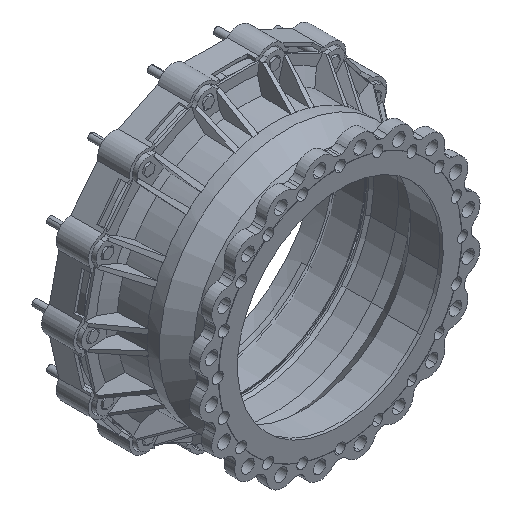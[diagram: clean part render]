
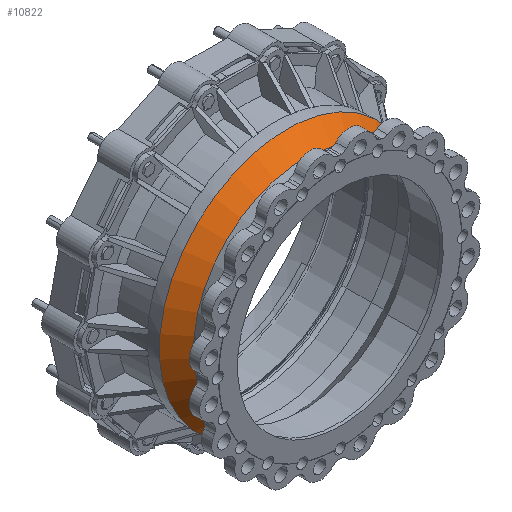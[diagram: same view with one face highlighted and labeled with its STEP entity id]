
A CAD part, isometric view. The second image highlights one B-rep face of the part: STEP entity #10822.
In plain terms, the highlighted conical face has half-angle 45 degrees and reference radius 352.839 mm.
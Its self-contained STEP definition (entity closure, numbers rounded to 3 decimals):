
#2151=DIRECTION('',(-0.553,-0.707,0.441));
#2152=VECTOR('',#2151,71.671);
#2153=CARTESIAN_POINT('',(295.672,-2.968,
-235.791));
#2154=LINE('',#2153,#2152);
#2160=DIRECTION('',(-0.689,-0.707,0.157));
#2161=VECTOR('',#2160,71.671);
#2162=CARTESIAN_POINT('',(368.697,-2.968,
-84.153));
#2163=LINE('',#2162,#2161);
#2164=CARTESIAN_POINT('',(0.,-53.647,0.));
#2165=DIRECTION('',(0.,-1.,0.));
#2166=DIRECTION('',(0.975,0.,-0.223));
#2167=AXIS2_PLACEMENT_3D('',#2164,#2165,#2166);
#2169=CARTESIAN_POINT('',(0.,-2.968,0.));
#2170=DIRECTION('',(0.,1.,0.));
#2171=DIRECTION('',(0.782,0.,-0.623));
#2172=AXIS2_PLACEMENT_3D('',#2169,#2170,#2171);
#7379=CARTESIAN_POINT('',(368.697,-2.968,
-84.153));
#7381=VERTEX_POINT('',#7379);
#7383=CARTESIAN_POINT('',(295.672,-2.968,
-235.791));
#7385=VERTEX_POINT('',#7383);
#7400=CARTESIAN_POINT('',(319.289,-53.647,
-72.876));
#7402=VERTEX_POINT('',#7400);
#7414=CARTESIAN_POINT('',(256.05,-53.647,
-204.193));
#7416=VERTEX_POINT('',#7414);
#10810=CARTESIAN_POINT('',(0.,-28.308,0.));
#10811=DIRECTION('',(0.,1.,0.));
#10812=DIRECTION('',(1.,0.,0.));
#10813=AXIS2_PLACEMENT_3D('',#10810,#10811,#10812);
#10814=CONICAL_SURFACE('',#10813,352.84,45.);
#10815=ORIENTED_EDGE('',*,*,#10800,.T.);
#10816=ORIENTED_EDGE('',*,*,#10777,.T.);
#10817=ORIENTED_EDGE('',*,*,#10804,.F.);
#10819=ORIENTED_EDGE('',*,*,#10818,.T.);
#10820=EDGE_LOOP('',(#10815,#10816,#10817,#10819));
#10821=FACE_OUTER_BOUND('',#10820,.F.);
#10822=ADVANCED_FACE('',(#10821),#10814,.T.);
#2168=CIRCLE('',#2167,327.5);
#2173=CIRCLE('',#2172,378.179);
#10777=EDGE_CURVE('',#7402,#7416,#2168,.T.);
#10800=EDGE_CURVE('',#7381,#7402,#2163,.T.);
#10804=EDGE_CURVE('',#7385,#7416,#2154,.T.);
#10818=EDGE_CURVE('',#7385,#7381,#2173,.T.);
